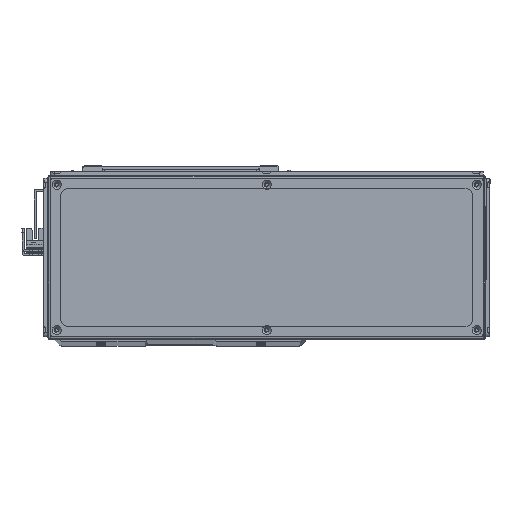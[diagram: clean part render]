
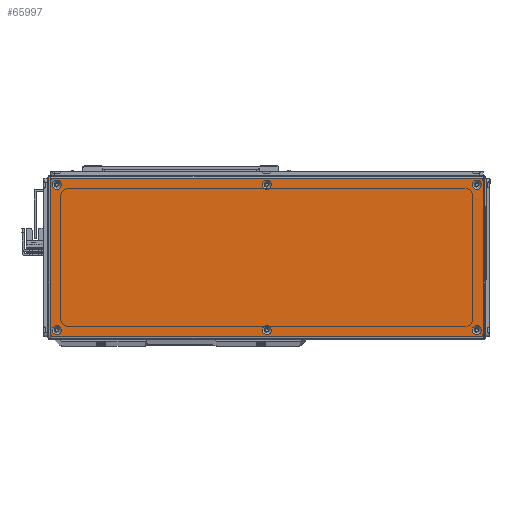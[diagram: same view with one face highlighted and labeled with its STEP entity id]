
A CAD part, top view. The second image highlights one B-rep face of the part: STEP entity #65997.
In plain terms, the highlighted planar face has unit normal (0, 0, 1) as drawn and (0, -1, 0) by its records, which use the part's own axes.
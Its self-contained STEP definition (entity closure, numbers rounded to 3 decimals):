
#1168=FACE_BOUND('',#9824,.T.);
#1169=FACE_BOUND('',#9825,.T.);
#1170=FACE_BOUND('',#9826,.T.);
#1171=FACE_BOUND('',#9827,.T.);
#1172=FACE_BOUND('',#9828,.T.);
#1173=FACE_BOUND('',#9829,.T.);
#1988=PLANE('',#71110);
#5946=FACE_OUTER_BOUND('',#9823,.T.);
#9823=EDGE_LOOP('',(#51713,#51714,#51715,#51716,#51717,#51718,#51719,#51720));
#9824=EDGE_LOOP('',(#51721));
#9825=EDGE_LOOP('',(#51722));
#9826=EDGE_LOOP('',(#51723));
#9827=EDGE_LOOP('',(#51724));
#9828=EDGE_LOOP('',(#51725));
#9829=EDGE_LOOP('',(#51726));
#14291=LINE('',#99131,#22143);
#14292=LINE('',#99135,#22144);
#14293=LINE('',#99139,#22145);
#14294=LINE('',#99142,#22146);
#22143=VECTOR('',#80533,10.);
#22144=VECTOR('',#80536,10.);
#22145=VECTOR('',#80539,10.);
#22146=VECTOR('',#80542,10.);
#29105=CIRCLE('',#71078,3.45);
#29108=CIRCLE('',#71083,3.45);
#29111=CIRCLE('',#71088,3.45);
#29114=CIRCLE('',#71093,3.45);
#29117=CIRCLE('',#71098,3.45);
#29120=CIRCLE('',#71103,3.45);
#29123=CIRCLE('',#71108,3.);
#29125=CIRCLE('',#71111,3.);
#29126=CIRCLE('',#71112,3.);
#29127=CIRCLE('',#71113,3.);
#31621=VERTEX_POINT('',#99061);
#31624=VERTEX_POINT('',#99071);
#31627=VERTEX_POINT('',#99081);
#31630=VERTEX_POINT('',#99091);
#31633=VERTEX_POINT('',#99101);
#31636=VERTEX_POINT('',#99111);
#31639=VERTEX_POINT('',#99121);
#31640=VERTEX_POINT('',#99122);
#31643=VERTEX_POINT('',#99130);
#31644=VERTEX_POINT('',#99132);
#31645=VERTEX_POINT('',#99134);
#31646=VERTEX_POINT('',#99136);
#31647=VERTEX_POINT('',#99138);
#31648=VERTEX_POINT('',#99140);
#39008=EDGE_CURVE('',#31621,#31621,#29105,.T.);
#39013=EDGE_CURVE('',#31624,#31624,#29108,.T.);
#39018=EDGE_CURVE('',#31627,#31627,#29111,.T.);
#39023=EDGE_CURVE('',#31630,#31630,#29114,.T.);
#39028=EDGE_CURVE('',#31633,#31633,#29117,.T.);
#39033=EDGE_CURVE('',#31636,#31636,#29120,.T.);
#39038=EDGE_CURVE('',#31639,#31640,#29123,.T.);
#39042=EDGE_CURVE('',#31639,#31643,#14291,.T.);
#39043=EDGE_CURVE('',#31644,#31643,#29125,.T.);
#39044=EDGE_CURVE('',#31644,#31645,#14292,.T.);
#39045=EDGE_CURVE('',#31646,#31645,#29126,.T.);
#39046=EDGE_CURVE('',#31646,#31647,#14293,.T.);
#39047=EDGE_CURVE('',#31648,#31647,#29127,.T.);
#39048=EDGE_CURVE('',#31648,#31640,#14294,.T.);
#51713=ORIENTED_EDGE('',*,*,#39038,.F.);
#51714=ORIENTED_EDGE('',*,*,#39042,.T.);
#51715=ORIENTED_EDGE('',*,*,#39043,.F.);
#51716=ORIENTED_EDGE('',*,*,#39044,.T.);
#51717=ORIENTED_EDGE('',*,*,#39045,.F.);
#51718=ORIENTED_EDGE('',*,*,#39046,.T.);
#51719=ORIENTED_EDGE('',*,*,#39047,.F.);
#51720=ORIENTED_EDGE('',*,*,#39048,.T.);
#51721=ORIENTED_EDGE('',*,*,#39008,.T.);
#51722=ORIENTED_EDGE('',*,*,#39013,.T.);
#51723=ORIENTED_EDGE('',*,*,#39018,.T.);
#51724=ORIENTED_EDGE('',*,*,#39023,.T.);
#51725=ORIENTED_EDGE('',*,*,#39028,.T.);
#51726=ORIENTED_EDGE('',*,*,#39033,.T.);
#65997=ADVANCED_FACE('',(#5946,#1168,#1169,#1170,#1171,#1172,#1173),#1988,
 .T.);
#71078=AXIS2_PLACEMENT_3D('',#99062,#80453,#80454);
#71083=AXIS2_PLACEMENT_3D('',#99072,#80465,#80466);
#71088=AXIS2_PLACEMENT_3D('',#99082,#80477,#80478);
#71093=AXIS2_PLACEMENT_3D('',#99092,#80489,#80490);
#71098=AXIS2_PLACEMENT_3D('',#99102,#80501,#80502);
#71103=AXIS2_PLACEMENT_3D('',#99112,#80513,#80514);
#71108=AXIS2_PLACEMENT_3D('',#99123,#80525,#80526);
#71110=AXIS2_PLACEMENT_3D('',#99129,#80531,#80532);
#71111=AXIS2_PLACEMENT_3D('',#99133,#80534,#80535);
#71112=AXIS2_PLACEMENT_3D('',#99137,#80537,#80538);
#71113=AXIS2_PLACEMENT_3D('',#99141,#80540,#80541);
#80453=DIRECTION('center_axis',(0.,1.,0.));
#80454=DIRECTION('ref_axis',(1.,0.,0.));
#80465=DIRECTION('center_axis',(0.,1.,0.));
#80466=DIRECTION('ref_axis',(1.,0.,0.));
#80477=DIRECTION('center_axis',(0.,1.,0.));
#80478=DIRECTION('ref_axis',(1.,0.,0.));
#80489=DIRECTION('center_axis',(0.,1.,0.));
#80490=DIRECTION('ref_axis',(1.,0.,0.));
#80501=DIRECTION('center_axis',(0.,1.,0.));
#80502=DIRECTION('ref_axis',(1.,0.,0.));
#80513=DIRECTION('center_axis',(0.,1.,0.));
#80514=DIRECTION('ref_axis',(1.,0.,0.));
#80525=DIRECTION('center_axis',(0.,1.,0.));
#80526=DIRECTION('ref_axis',(-0.707,0.,0.707));
#80531=DIRECTION('center_axis',(0.,-1.,0.));
#80532=DIRECTION('ref_axis',(0.,0.,-1.));
#80533=DIRECTION('',(0.,0.,-1.));
#80534=DIRECTION('center_axis',(0.,1.,0.));
#80535=DIRECTION('ref_axis',(-0.707,0.,-0.707));
#80536=DIRECTION('',(1.,0.,0.));
#80537=DIRECTION('center_axis',(0.,1.,0.));
#80538=DIRECTION('ref_axis',(0.707,0.,-0.707));
#80539=DIRECTION('',(0.,0.,1.));
#80540=DIRECTION('center_axis',(0.,1.,0.));
#80541=DIRECTION('ref_axis',(0.707,0.,0.707));
#80542=DIRECTION('',(-1.,0.,0.));
#99061=CARTESIAN_POINT('',(154.05,-1.5,54.5));
#99062=CARTESIAN_POINT('Origin',(157.5,-1.5,54.5));
#99071=CARTESIAN_POINT('',(-3.45,-1.5,54.5));
#99072=CARTESIAN_POINT('Origin',(0.,-1.5,54.5));
#99081=CARTESIAN_POINT('',(-160.95,-1.5,54.5));
#99082=CARTESIAN_POINT('Origin',(-157.5,-1.5,54.5));
#99091=CARTESIAN_POINT('',(-160.95,-1.5,-54.5));
#99092=CARTESIAN_POINT('Origin',(-157.5,-1.5,-54.5));
#99101=CARTESIAN_POINT('',(-3.45,-1.5,-54.5));
#99102=CARTESIAN_POINT('Origin',(0.,-1.5,-54.5));
#99111=CARTESIAN_POINT('',(154.05,-1.5,-54.5));
#99112=CARTESIAN_POINT('Origin',(157.5,-1.5,-54.5));
#99121=CARTESIAN_POINT('',(-162.5,-1.5,56.5));
#99122=CARTESIAN_POINT('',(-159.5,-1.5,59.5));
#99123=CARTESIAN_POINT('Origin',(-159.5,-1.5,56.5));
#99129=CARTESIAN_POINT('Origin',(0.,-1.5,0.));
#99130=CARTESIAN_POINT('',(-162.5,-1.5,-56.5));
#99131=CARTESIAN_POINT('',(-162.5,-1.5,59.5));
#99132=CARTESIAN_POINT('',(-159.5,-1.5,-59.5));
#99133=CARTESIAN_POINT('Origin',(-159.5,-1.5,-56.5));
#99134=CARTESIAN_POINT('',(159.5,-1.5,-59.5));
#99135=CARTESIAN_POINT('',(-162.5,-1.5,-59.5));
#99136=CARTESIAN_POINT('',(162.5,-1.5,-56.5));
#99137=CARTESIAN_POINT('Origin',(159.5,-1.5,-56.5));
#99138=CARTESIAN_POINT('',(162.5,-1.5,56.5));
#99139=CARTESIAN_POINT('',(162.5,-1.5,-59.5));
#99140=CARTESIAN_POINT('',(159.5,-1.5,59.5));
#99141=CARTESIAN_POINT('Origin',(159.5,-1.5,56.5));
#99142=CARTESIAN_POINT('',(162.5,-1.5,59.5));
